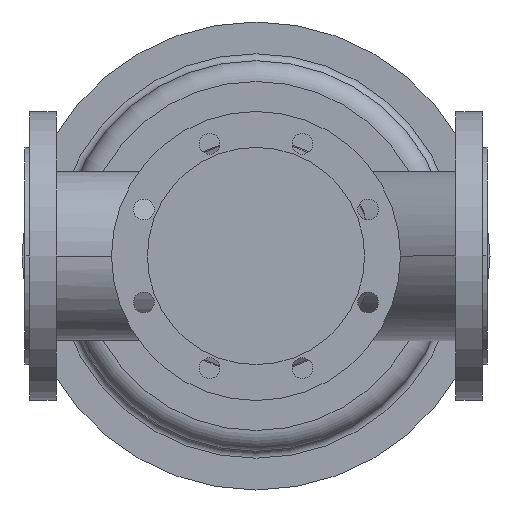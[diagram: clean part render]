
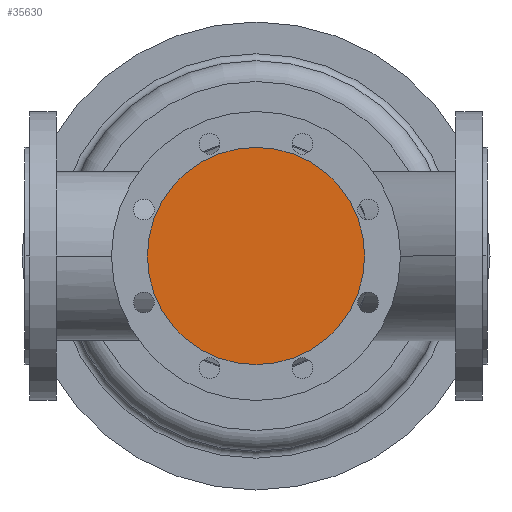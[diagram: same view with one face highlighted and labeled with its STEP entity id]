
A CAD part, front view. The second image highlights one B-rep face of the part: STEP entity #35630.
In plain terms, the highlighted planar face has unit normal (0, -1, 0).
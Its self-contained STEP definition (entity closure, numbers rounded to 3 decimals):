
#7120=CARTESIAN_POINT('',(294.,-200.,0.));
#7130=VERTEX_POINT('',#7120);
#7160=CARTESIAN_POINT('',(200.,-200.,0.));
#7170=DIRECTION('',(0.,1.,0.));
#7180=DIRECTION('',(1.,0.,0.));
#7190=AXIS2_PLACEMENT_3D('',#7160,#7170,#7180);
#7200=CIRCLE('',#7190,94.);
#7210=CARTESIAN_POINT('',(106.,-200.,0.));
#7220=VERTEX_POINT('',#7210);
#7230=EDGE_CURVE('',#7220,#7130,#7200,.T.);
#35530=CARTESIAN_POINT('',(247.,-200.,0.));
#35540=DIRECTION('',(0.,-1.,0.));
#35550=DIRECTION('',(-1.,0.,0.));
#35560=AXIS2_PLACEMENT_3D('',#35530,#35540,#35550);
#35570=PLANE('',#35560);
#35580=EDGE_CURVE('',#7130,#7220,#7200,.T.);
#35590=ORIENTED_EDGE('',*,*,#35580,.F.);
#35600=ORIENTED_EDGE('',*,*,#7230,.F.);
#35610=EDGE_LOOP('',(#35600,#35590));
#35620=FACE_OUTER_BOUND('',#35610,.T.);
#35630=ADVANCED_FACE('',(#35620),#35570,.T.);
